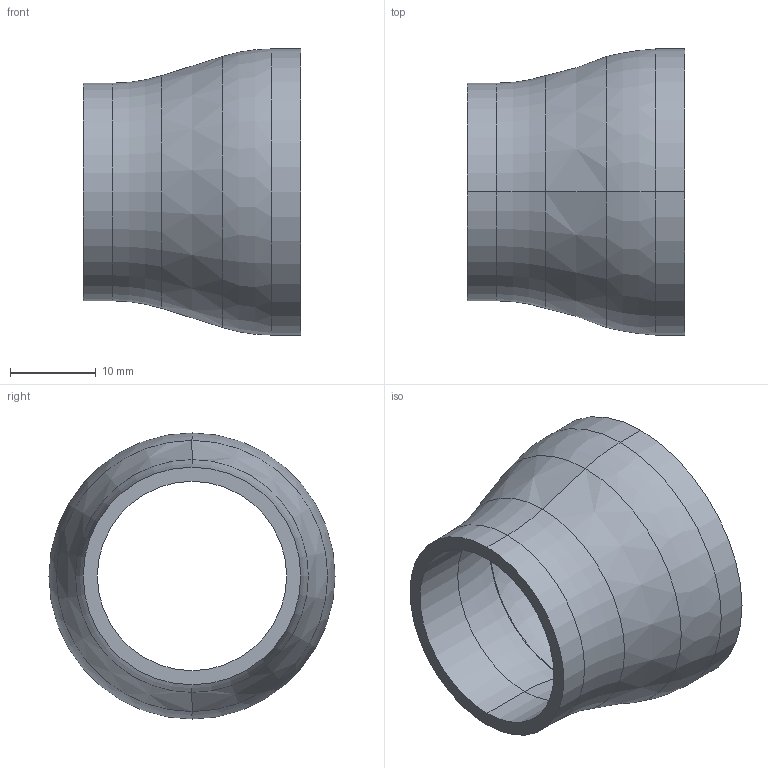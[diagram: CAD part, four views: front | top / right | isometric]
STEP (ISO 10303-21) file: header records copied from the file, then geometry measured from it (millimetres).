
FILE_DESCRIPTION (( 'STEP AP214' ), '1' );
FILE_NAME ('E17WW1.0XSCH40.STEP', '2017-09-29T16:57:23', ( 'vneprd' ), ( 'Microsoft' ), 'SwSTEP 2.0', 'SolidWorks 2014', '' );
FILE_SCHEMA (( 'AUTOMOTIVE_DESIGN' ));
Length unit declared in the file: inch
Products named in the file (1): E17WW1.0XSCH40
Bounding box: 25.4 x 33.4 x 33.4 mm (x, y, z)
Volume: 5518.9 mm3; surface area: 4801.2 mm2
Topology: 1 solids, 1 shells, 22 faces, 44 edges, 24 vertices
Faces by surface type: cylinder 8, torus 8, cone 4, plane 2
Entity records: 616 total; most frequent: DIRECTION 122, CARTESIAN_POINT 91, ORIENTED_EDGE 88, AXIS2_PLACEMENT_3D 55, EDGE_CURVE 44, CIRCLE 32, VERTEX_POINT 24, EDGE_LOOP 24
